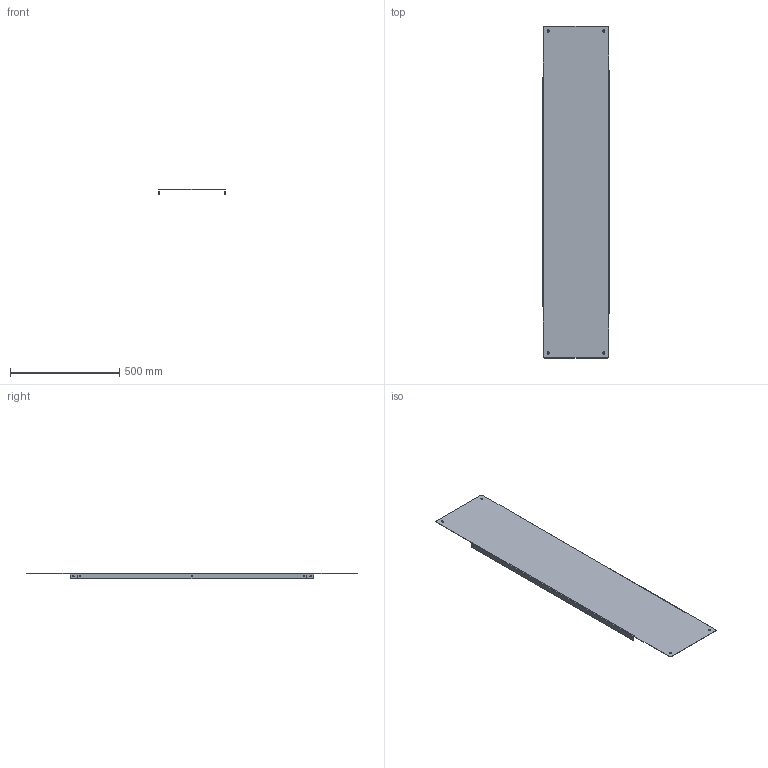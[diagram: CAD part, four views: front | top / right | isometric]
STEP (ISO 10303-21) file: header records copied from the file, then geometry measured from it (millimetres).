
FILE_DESCRIPTION((''),'2;1');
FILE_NAME('FLOOR-KIT-SKIRT-ASSEMBLY_ASM','2015-10-27T',('mikepo'),('SAGINAW CONTROL & ENGINEERING'),'PRO/ENGINEER BY PARAMETRIC TECHNOLOGY CORPORATION, 2012070','PRO/ENGINEER BY PARAMETRIC TECHNOLOGY CORPORATION, 2012070','');
FILE_SCHEMA(('AUTOMOTIVE_DESIGN { 1 0 10303 214 1 1 1 1 }'));
Length unit declared in the file: inch
Products named in the file (3): FLOOR-KIT-SKIRT; 121214; FLOOR-KIT-SKIRT-ASSEMBLY_ASM
Assembly tree (2 placements, depth 2):
  FLOOR-KIT-SKIRT-ASSEMBLY_ASM
    FLOOR-KIT-SKIRT
    121214
Bounding box: 303.21 x 1517.65 x 25.4 mm (x, y, z)
Volume: 773669.2 mm3; surface area: 1021366.5 mm2
Topology: 1 solids, 1 shells, 82 faces, 224 edges, 144 vertices
Faces by surface type: plane 38, cylinder 32, bspline 12
Entity records: 2997 total; most frequent: CARTESIAN_POINT 743, ORIENTED_EDGE 448, DIRECTION 438, EDGE_CURVE 224, AXIS2_PLACEMENT_3D 147, VECTOR 144, LINE 144, VERTEX_POINT 144
